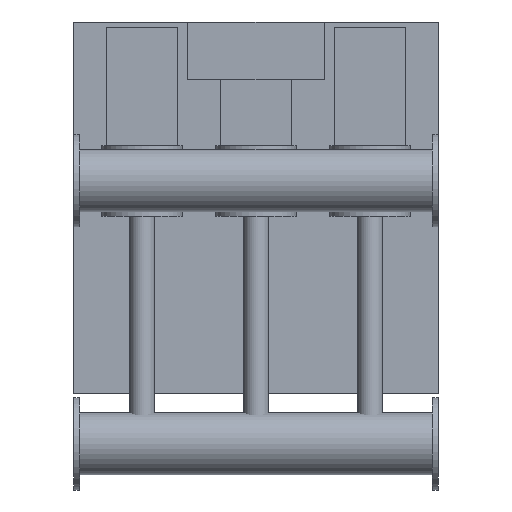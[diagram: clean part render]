
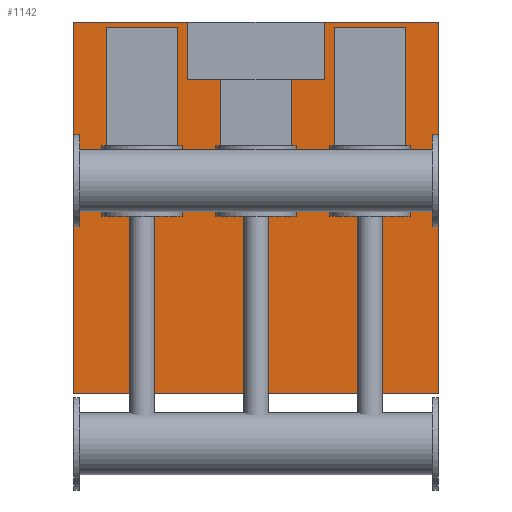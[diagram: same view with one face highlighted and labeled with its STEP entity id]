
A CAD part, top view. The second image highlights one B-rep face of the part: STEP entity #1142.
In plain terms, the highlighted planar face has unit normal (0, 0, 1).
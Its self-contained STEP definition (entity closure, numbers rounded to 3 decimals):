
#828 = VERTEX_POINT('',#829);
#829 = CARTESIAN_POINT('',(0.,425.,120.));
#836 = PLANE('',#837);
#837 = AXIS2_PLACEMENT_3D('',#838,#839,#840);
#838 = CARTESIAN_POINT('',(0.,425.,0.));
#839 = DIRECTION('',(1.,0.,0.));
#840 = DIRECTION('',(0.,0.,1.));
#848 = PLANE('',#849);
#849 = AXIS2_PLACEMENT_3D('',#850,#851,#852);
#850 = CARTESIAN_POINT('',(0.,425.,0.));
#851 = DIRECTION('',(0.,1.,0.));
#852 = DIRECTION('',(0.,0.,1.));
#889 = VERTEX_POINT('',#890);
#890 = CARTESIAN_POINT('',(0.,2050.,120.));
#904 = PLANE('',#905);
#905 = AXIS2_PLACEMENT_3D('',#906,#907,#908);
#906 = CARTESIAN_POINT('',(0.,2050.,0.));
#907 = DIRECTION('',(0.,1.,0.));
#908 = DIRECTION('',(0.,0.,1.));
#916 = EDGE_CURVE('',#828,#889,#917,.T.);
#917 = SURFACE_CURVE('',#918,(#922,#929),.PCURVE_S1.);
#918 = LINE('',#919,#920);
#919 = CARTESIAN_POINT('',(0.,425.,120.));
#920 = VECTOR('',#921,1.);
#921 = DIRECTION('',(0.,1.,0.));
#922 = PCURVE('',#836,#923);
#923 = DEFINITIONAL_REPRESENTATION('',(#924),#928);
#924 = LINE('',#925,#926);
#925 = CARTESIAN_POINT('',(120.,0.));
#926 = VECTOR('',#927,1.);
#927 = DIRECTION('',(0.,-1.));
#928 = ( GEOMETRIC_REPRESENTATION_CONTEXT(2) 
PARAMETRIC_REPRESENTATION_CONTEXT() REPRESENTATION_CONTEXT('2D SPACE',''
  ) );
#929 = PCURVE('',#930,#935);
#930 = PLANE('',#931);
#931 = AXIS2_PLACEMENT_3D('',#932,#933,#934);
#932 = CARTESIAN_POINT('',(0.,425.,120.));
#933 = DIRECTION('',(0.,0.,1.));
#934 = DIRECTION('',(1.,0.,0.));
#935 = DEFINITIONAL_REPRESENTATION('',(#936),#940);
#936 = LINE('',#937,#938);
#937 = CARTESIAN_POINT('',(0.,0.));
#938 = VECTOR('',#939,1.);
#939 = DIRECTION('',(0.,1.));
#940 = ( GEOMETRIC_REPRESENTATION_CONTEXT(2) 
PARAMETRIC_REPRESENTATION_CONTEXT() REPRESENTATION_CONTEXT('2D SPACE',''
  ) );
#948 = VERTEX_POINT('',#949);
#949 = CARTESIAN_POINT('',(1600.,425.,120.));
#956 = PLANE('',#957);
#957 = AXIS2_PLACEMENT_3D('',#958,#959,#960);
#958 = CARTESIAN_POINT('',(1600.,425.,0.));
#959 = DIRECTION('',(1.,0.,0.));
#960 = DIRECTION('',(0.,0.,1.));
#999 = VERTEX_POINT('',#1000);
#1000 = CARTESIAN_POINT('',(1600.,2050.,120.));
#1021 = EDGE_CURVE('',#948,#999,#1022,.T.);
#1022 = SURFACE_CURVE('',#1023,(#1027,#1034),.PCURVE_S1.);
#1023 = LINE('',#1024,#1025);
#1024 = CARTESIAN_POINT('',(1600.,425.,120.));
#1025 = VECTOR('',#1026,1.);
#1026 = DIRECTION('',(0.,1.,0.));
#1027 = PCURVE('',#956,#1028);
#1028 = DEFINITIONAL_REPRESENTATION('',(#1029),#1033);
#1029 = LINE('',#1030,#1031);
#1030 = CARTESIAN_POINT('',(120.,0.));
#1031 = VECTOR('',#1032,1.);
#1032 = DIRECTION('',(0.,-1.));
#1033 = ( GEOMETRIC_REPRESENTATION_CONTEXT(2) 
PARAMETRIC_REPRESENTATION_CONTEXT() REPRESENTATION_CONTEXT('2D SPACE',''
  ) );
#1034 = PCURVE('',#930,#1035);
#1035 = DEFINITIONAL_REPRESENTATION('',(#1036),#1040);
#1036 = LINE('',#1037,#1038);
#1037 = CARTESIAN_POINT('',(1600.,0.));
#1038 = VECTOR('',#1039,1.);
#1039 = DIRECTION('',(0.,1.));
#1040 = ( GEOMETRIC_REPRESENTATION_CONTEXT(2) 
PARAMETRIC_REPRESENTATION_CONTEXT() REPRESENTATION_CONTEXT('2D SPACE',''
  ) );
#1067 = EDGE_CURVE('',#828,#948,#1068,.T.);
#1068 = SURFACE_CURVE('',#1069,(#1073,#1080),.PCURVE_S1.);
#1069 = LINE('',#1070,#1071);
#1070 = CARTESIAN_POINT('',(0.,425.,120.));
#1071 = VECTOR('',#1072,1.);
#1072 = DIRECTION('',(1.,0.,0.));
#1073 = PCURVE('',#848,#1074);
#1074 = DEFINITIONAL_REPRESENTATION('',(#1075),#1079);
#1075 = LINE('',#1076,#1077);
#1076 = CARTESIAN_POINT('',(120.,0.));
#1077 = VECTOR('',#1078,1.);
#1078 = DIRECTION('',(0.,1.));
#1079 = ( GEOMETRIC_REPRESENTATION_CONTEXT(2) 
PARAMETRIC_REPRESENTATION_CONTEXT() REPRESENTATION_CONTEXT('2D SPACE',''
  ) );
#1080 = PCURVE('',#930,#1081);
#1081 = DEFINITIONAL_REPRESENTATION('',(#1082),#1086);
#1082 = LINE('',#1083,#1084);
#1083 = CARTESIAN_POINT('',(0.,0.));
#1084 = VECTOR('',#1085,1.);
#1085 = DIRECTION('',(1.,0.));
#1086 = ( GEOMETRIC_REPRESENTATION_CONTEXT(2) 
PARAMETRIC_REPRESENTATION_CONTEXT() REPRESENTATION_CONTEXT('2D SPACE',''
  ) );
#1114 = EDGE_CURVE('',#889,#999,#1115,.T.);
#1115 = SURFACE_CURVE('',#1116,(#1120,#1127),.PCURVE_S1.);
#1116 = LINE('',#1117,#1118);
#1117 = CARTESIAN_POINT('',(0.,2050.,120.));
#1118 = VECTOR('',#1119,1.);
#1119 = DIRECTION('',(1.,0.,0.));
#1120 = PCURVE('',#904,#1121);
#1121 = DEFINITIONAL_REPRESENTATION('',(#1122),#1126);
#1122 = LINE('',#1123,#1124);
#1123 = CARTESIAN_POINT('',(120.,0.));
#1124 = VECTOR('',#1125,1.);
#1125 = DIRECTION('',(0.,1.));
#1126 = ( GEOMETRIC_REPRESENTATION_CONTEXT(2) 
PARAMETRIC_REPRESENTATION_CONTEXT() REPRESENTATION_CONTEXT('2D SPACE',''
  ) );
#1127 = PCURVE('',#930,#1128);
#1128 = DEFINITIONAL_REPRESENTATION('',(#1129),#1133);
#1129 = LINE('',#1130,#1131);
#1130 = CARTESIAN_POINT('',(0.,1625.));
#1131 = VECTOR('',#1132,1.);
#1132 = DIRECTION('',(1.,0.));
#1133 = ( GEOMETRIC_REPRESENTATION_CONTEXT(2) 
PARAMETRIC_REPRESENTATION_CONTEXT() REPRESENTATION_CONTEXT('2D SPACE',''
  ) );
#1142 = ADVANCED_FACE('',(#1143),#930,.T.);
#1143 = FACE_BOUND('',#1144,.T.);
#1144 = EDGE_LOOP('',(#1145,#1146,#1147,#1148));
#1145 = ORIENTED_EDGE('',*,*,#916,.F.);
#1146 = ORIENTED_EDGE('',*,*,#1067,.T.);
#1147 = ORIENTED_EDGE('',*,*,#1021,.T.);
#1148 = ORIENTED_EDGE('',*,*,#1114,.F.);
